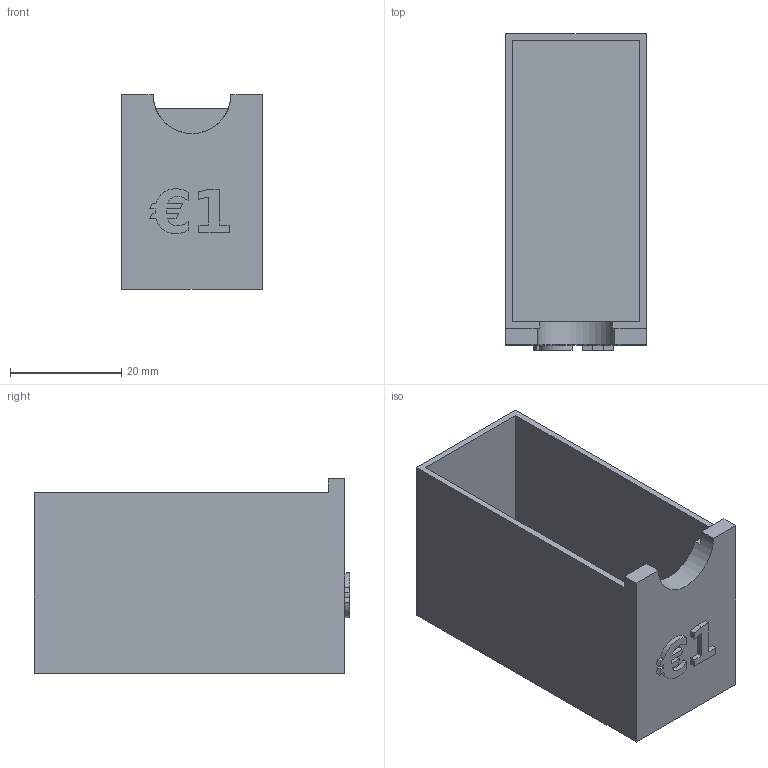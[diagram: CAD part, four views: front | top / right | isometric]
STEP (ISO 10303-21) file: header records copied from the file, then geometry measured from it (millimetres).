
FILE_DESCRIPTION(('Open CASCADE Model'),'2;1');
FILE_NAME('Open CASCADE Shape Model','2026-10-20T15:47:44',('Author'),( 'Open CASCADE'),'Open CASCADE STEP processor 8.0','build123d', 'Unknown');
FILE_SCHEMA(('AUTOMOTIVE_DESIGN { 1 0 10303 214 1 1 1 1 }'));
Length unit declared in the file: millimetre
Products named in the file (2): =>[0:1:1:2]; COMPOUND
Assembly tree (1 placements, depth 2):
  =>[0:1:1:2]
    COMPOUND
Bounding box: 25.35 x 56.84 x 35 mm (x, y, z)
Volume: 9737.1 mm3; surface area: 12803.7 mm2
Topology: 1 solids, 1 shells, 49 faces, 135 edges, 90 vertices
Faces by surface type: plane 42, extrusion 6, cylinder 1
Entity records: 3414 total; most frequent: CARTESIAN_POINT 736, DIRECTION 461, VECTOR 363, LINE 357, ORIENTED_EDGE 270, PCURVE 270, DEFINITIONAL_REPRESENTATION 270, EDGE_CURVE 135
